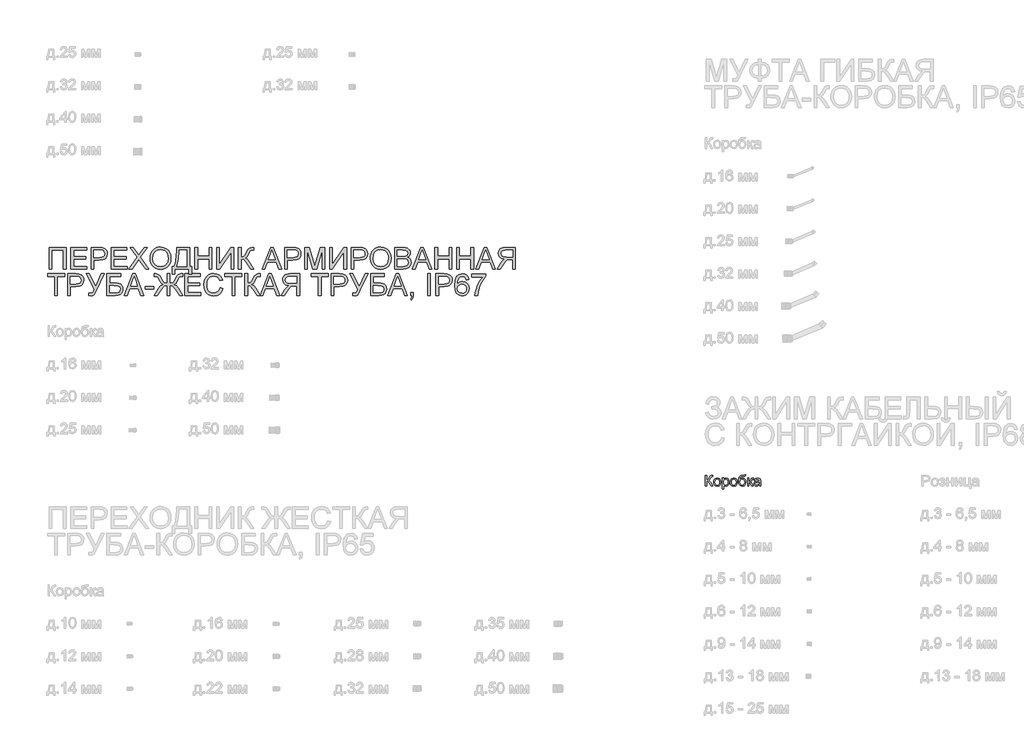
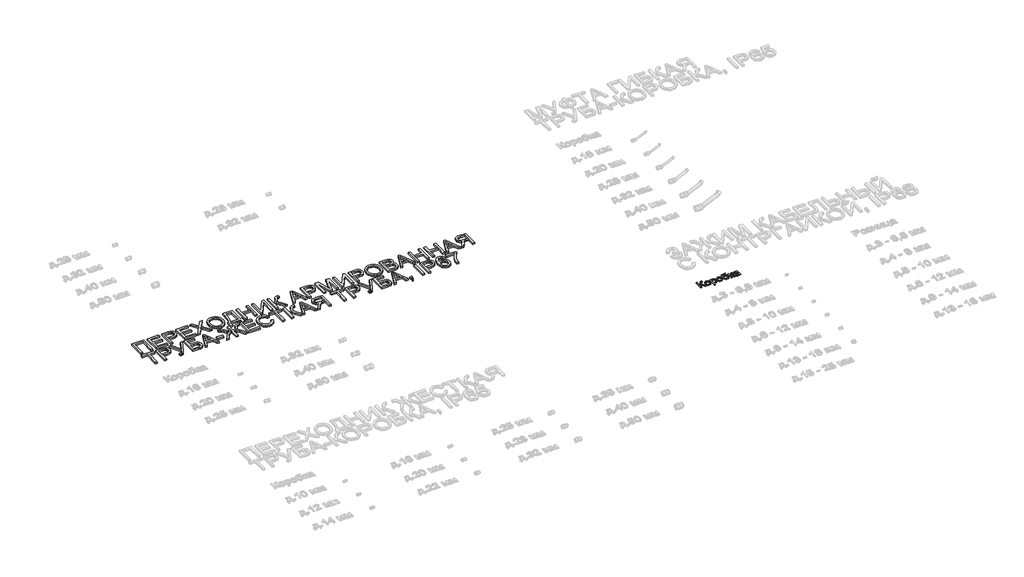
# One storey, part 59 of 98: 2 proxies.
"""IFC4 building model written with IfcOpenShell, lengths in millimetres."""

from ifc_helpers import new_model, si_unit, origin, origin_with_axes, place, context, project, spatial, polyline, outline, extrude, element, save

model = new_model("IFC4")

# Units and contexts
model_context = context("Model", 3, world=origin())
ifc_project = project(units=[si_unit("LENGTHUNIT", "METRE", prefix="MILLI")], contexts=[model_context])

# Site, building, storey
site = spatial("IfcSite", under=ifc_project)
building = spatial("IfcBuilding", under=site)
storey = spatial("IfcBuildingStorey", under=building, Name="Этаж 01", Elevation=0.0)

# Proxies
placement = place(None, origin())
element("IfcBuildingElementProxy", 1, Name="100", ObjectType="100", at=placement, inside=storey, context=model_context, shape_type="SweptSolid", body=[
    extrude(outline(polyline([(14422.316053, -27123.005492), (14434.8730918, -27123.005492), (14434.8730918, -27166.9551277), (14448.9139213, -27163.631927), (14458.7118451, -27146.8197198), (14465.6402893, -27132.7788903), (14473.4884386, -27125.8259206), (14484.7088394, -27123.005492), (14492.9493961, -27123.1526448), (14492.9493961, -27135.7096836), (14490.1780184, -27135.6361072), (14487.4066407, -27135.5625308), (14477.5964542, -27138.5791631), (14470.1407124, -27151.5040839), (14461.2502309, -27167.2494333), (14452.5804785, -27172.4488322), (14462.2741691, -27178.1264776), (14471.8329696, -27189.9600151), (14492.9493961, -27223.4618021), (14478.3812691, -27223.4618021), (14460.5267296, -27195.159414), (14447.9574281, -27180.3828205), (14434.8730918, -27176.3729068), (14434.8730918, -27223.4618021), (14422.316053, -27223.4618021), (14422.316053, -27123.005492)])), origin_with_axes(), (0.0, 0.0, 1.0), 10.0),
    extrude(outline(polyline([(14499.2279155, -27186.5755008), (14501.9441109, -27168.7884063), (14510.0926971, -27156.2865498), (14520.160401, -27150.1613146), (14532.2146677, -27148.1195695), (14545.4063029, -27150.6058387), (14555.9430564, -27158.0646461), (14562.8500409, -27169.9073807), (14565.152369, -27185.5454312), (14561.0811416, -27207.888131), (14549.2230786, -27220.5310089), (14532.2146677, -27225.031432), (14518.863617, -27222.5543599), (14508.3391263, -27215.1231436), (14501.5057182, -27203.0320887), (14499.2279155, -27186.5755008)]), holes=[polyline([(14511.7849543, -27186.5509753), (14513.2380882, -27197.9154633), (14517.5974898, -27206.0119328), (14524.158052, -27210.8587781), (14532.2146677, -27212.4743932), (14540.2344952, -27210.8495811), (14546.7827947, -27205.9751446), (14551.1421964, -27197.7713762), (14552.5953303, -27186.1585678), (14551.1329993, -27175.1251737), (14546.7460065, -27167.1390687), (14540.18851, -27162.2922234), (14532.2146677, -27160.6766083), (14524.158052, -27162.286092), (14517.5974898, -27167.1145432), (14513.2380882, -27175.1926187), (14511.7849543, -27186.5509753)])]), origin_with_axes(), (0.0, 0.0, 1.0), 10.0),
    extrude(outline(polyline([(14579.2790377, -27251.7151394), (14579.2790377, -27149.6891994), (14591.8360764, -27149.6891994), (14591.8360764, -27162.0009835), (14600.5180915, -27151.589923), (14612.2412644, -27148.1195695), (14628.1582921, -27152.9756119), (14638.5570898, -27166.6608221), (14642.0642315, -27186.011415), (14638.1033687, -27206.3552894), (14626.600925, -27220.2121779), (14610.7206855, -27225.031432), (14599.7945903, -27221.8063332), (14591.8360764, -27213.6516156), (14591.8360764, -27251.7151394), (14579.2790377, -27251.7151394)]), holes=[polyline([(14591.8360764, -27187.164112), (14593.1941741, -27198.421301), (14597.2684672, -27206.2939757), (14603.2802722, -27210.9292888), (14610.4509054, -27212.4743932), (14617.7380346, -27210.8741065), (14623.9031237, -27206.0732465), (14628.1061755, -27197.9123976), (14629.5071927, -27186.2321442), (14628.139898, -27175.0362689), (14624.0380137, -27167.0532296), (14618.0354058, -27162.2707636), (14610.9659402, -27160.6766083), (14603.8688833, -27162.3719312), (14597.6363492, -27167.4578997), (14593.2861446, -27175.7750985), (14591.8360764, -27187.164112)])]), origin_with_axes(), (0.0, 0.0, 1.0), 10.0),
    extrude(outline(polyline([(14653.0516404, -27186.5755008), (14655.7678358, -27168.7884063), (14663.916422, -27156.2865498), (14673.9841259, -27150.1613146), (14686.0383927, -27148.1195695), (14699.2300279, -27150.6058387), (14709.7667813, -27158.0646461), (14716.6737658, -27169.9073807), (14718.976094, -27185.5454312), (14714.9048665, -27207.888131), (14703.0468036, -27220.5310089), (14686.0383927, -27225.031432), (14672.6873419, -27222.5543599), (14662.1628512, -27215.1231436), (14655.3294431, -27203.0320887), (14653.0516404, -27186.5755008)]), holes=[polyline([(14665.6086792, -27186.5509753), (14667.0618131, -27197.9154633), (14671.4212147, -27206.0119328), (14677.981777, -27210.8587781), (14686.0383927, -27212.4743932), (14694.0582202, -27210.8495811), (14700.6065197, -27205.9751446), (14704.9659213, -27197.7713762), (14706.4190552, -27186.1585678), (14704.9567243, -27175.1251737), (14700.5697315, -27167.1390687), (14694.0122349, -27162.2922234), (14686.0383927, -27160.6766083), (14677.981777, -27162.286092), (14671.4212147, -27167.1145432), (14667.0618131, -27175.1926187), (14665.6086792, -27186.5509753)])]), origin_with_axes(), (0.0, 0.0, 1.0), 10.0),
    extrude(outline(polyline([(14784.9005475, -27121.4358622), (14795.8879564, -27121.4358622), (14792.6505949, -27131.233786), (14786.2494481, -27134.7777158), (14770.8719807, -27135.5625308), (14750.1602244, -27138.4565358), (14742.2139733, -27147.7271621), (14739.5284348, -27164.1346991), (14750.4054791, -27152.1172206), (14764.4217831, -27148.1195695), (14777.4877253, -27150.661021), (14788.0888581, -27158.2853753), (14795.1154042, -27170.2446059), (14797.4575863, -27185.7906858), (14792.8100104, -27207.3976217), (14781.7858133, -27220.4329071), (14764.4217831, -27225.031432), (14753.087952, -27223.550707), (14744.5929436, -27219.1085319), (14733.7404247, -27203.9517937), (14729.9635029, -27171.7866446), (14732.3455388, -27147.6934396), (14739.4916466, -27132.9996195), (14751.5796358, -27125.5040239), (14768.7873161, -27123.005492), (14782.7668319, -27122.7234491), (14784.9005475, -27121.4358622)]), holes=[polyline([(14784.9005475, -27185.3982784), (14783.5393841, -27175.5175811), (14779.455894, -27167.6050525), (14772.8953317, -27162.4087194), (14764.102952, -27160.6766083), (14754.936559, -27162.5068212), (14748.1368734, -27167.99746), (14743.9246246, -27176.5476507), (14742.5205416, -27187.5565194), (14744.0717774, -27198.228163), (14748.7254846, -27206.0609838), (14755.6539289, -27210.8710409), (14764.0293756, -27212.4743932), (14772.447742, -27210.6196548), (14779.1125374, -27205.0554397), (14783.453545, -27196.4316726), (14784.9005475, -27185.3982784)])]), origin_with_axes(), (0.0, 0.0, 1.0), 10.0),
    extrude(outline(polyline([(14813.1538847, -27149.6891994), (14825.7109235, -27149.6891994), (14825.7109235, -27181.0817963), (14834.1231584, -27178.8254534), (14841.0148145, -27165.6798034), (14846.7415109, -27154.3367753), (14851.7937569, -27150.6456926), (14860.9785441, -27149.6891994), (14863.3820398, -27149.6891994), (14863.3820398, -27162.3198146), (14859.9975254, -27162.2462382), (14853.8661589, -27163.5706133), (14849.5496768, -27171.8356955), (14844.485168, -27180.775228), (14837.3850455, -27185.1530237), (14845.3067711, -27190.0397229), (14853.0813439, -27200.3342874), (14866.5212995, -27223.4618021), (14852.2474781, -27223.4618021), (14839.0773026, -27200.8247967), (14832.4554267, -27191.2476021), (14825.7109235, -27188.9299455), (14825.7109235, -27223.4618021), (14813.1538847, -27223.4618021), (14813.1538847, -27149.6891994)])), origin_with_axes(), (0.0, 0.0, 1.0), 10.0),
    extrude(outline(polyline([(14921.4583441, -27214.0440231), (14909.2814501, -27222.5543599), (14895.8292318, -27225.031432), (14885.3353979, -27223.5415099), (14877.5945475, -27219.0717437), (14872.8212787, -27212.2843209), (14871.230189, -27203.8414291), (14873.6336847, -27193.9086152), (14879.9489923, -27186.6981281), (14888.741372, -27182.5778498), (14899.6061536, -27180.6893888), (14921.3847677, -27176.3729068), (14921.4583441, -27173.5770036), (14918.0002533, -27164.3063773), (14904.1188394, -27160.6766083), (14891.4146478, -27163.0923667), (14885.3568576, -27171.6640172), (14872.7998189, -27170.0943874), (14878.2322097, -27157.8316542), (14889.1705677, -27150.6456926), (14905.7375202, -27148.1195695), (14920.955572, -27150.351387), (14929.551748, -27155.955456), (14933.4022462, -27164.4780556), (14934.0153829, -27175.4654645), (14934.0153829, -27191.0881866), (14934.653045, -27212.9035889), (14937.1546426, -27223.4618021), (14924.5976038, -27223.4618021), (14921.4583441, -27214.0440231)]), holes=[polyline([(14921.4583441, -27188.9299455), (14901.2003089, -27192.7804438), (14890.396841, -27194.8160575), (14885.5040104, -27198.1269954), (14883.7872278, -27202.9585123), (14887.5273614, -27209.7520665), (14898.5025076, -27212.4743932), (14911.2066992, -27209.4700236), (14919.3982049, -27202.1982228), (14921.3847677, -27192.4861382), (14921.4583441, -27188.9299455)])]), origin_with_axes(), (0.0, 0.0, 1.0), 10.0),
])
element("IfcBuildingElementProxy", 2, Name="200", ObjectType="200", at=placement, inside=storey, context=model_context, shape_type="SweptSolid", body=[
    extrude(outline(polyline([(8360.7263973, -25016.2483726), (8517.6893819, -25016.2483726), (8517.6893819, -25217.1609929), (8492.5753043, -25217.1609929), (8492.5753043, -25041.3624501), (8385.8404748, -25041.3624501), (8385.8404748, -25217.1609929), (8360.7263973, -25217.1609929), (8360.7263973, -25016.2483726)])), origin_with_axes(), (0.0, 0.0, 1.0), 20.0),
    extrude(outline(polyline([(8561.6390176, -25217.1609929), (8561.6390176, -25016.2483726), (8706.0449634, -25016.2483726), (8706.0449634, -25041.3624501), (8586.7530951, -25041.3624501), (8586.7530951, -25101.0083843), (8699.766444, -25101.0083843), (8699.766444, -25126.1224618), (8586.7530951, -25126.1224618), (8586.7530951, -25192.0469154), (8709.1842231, -25192.0469154), (8709.1842231, -25217.1609929), (8561.6390176, -25217.1609929)])), origin_with_axes(), (0.0, 0.0, 1.0), 20.0),
    extrude(outline(polyline([(8746.8553394, -25217.1609929), (8746.8553394, -25016.2483726), (8821.3146552, -25016.2483726), (8851.333826, -25018.161359), (8875.736665, -25027.5546126), (8884.6087525, -25035.8810084), (8891.5555908, -25046.9787819), (8896.0437512, -25060.0692496), (8897.5398046, -25074.3737278), (8893.499234, -25098.0530656), (8881.3775223, -25117.7838033), (8871.6700362, -25125.5522447), (8858.70986, -25131.1011315), (8823.0314379, -25135.5402409), (8771.9694169, -25135.5402409), (8771.9694169, -25217.1609929), (8746.8553394, -25217.1609929)]), holes=[polyline([(8771.9694169, -25110.4261634), (8824.5029659, -25110.4261634), (8846.7720893, -25108.1207695), (8861.4873691, -25101.204588), (8869.6911376, -25090.1068145), (8872.4257271, -25075.2566446), (8870.8131777, -25063.9749301), (8865.9755294, -25054.4590492), (8858.5136563, -25047.297613), (8849.0284322, -25043.0792328), (8823.9143547, -25041.3624501), (8771.9694169, -25041.3624501), (8771.9694169, -25110.4261634)])]), origin_with_axes(), (0.0, 0.0, 1.0), 20.0),
    extrude(outline(polyline([(8932.0716612, -25217.1609929), (8932.0716612, -25016.2483726), (9076.4776071, -25016.2483726), (9076.4776071, -25041.3624501), (8957.1857388, -25041.3624501), (8957.1857388, -25101.0083843), (9070.1990877, -25101.0083843), (9070.1990877, -25126.1224618), (8957.1857388, -25126.1224618), (8957.1857388, -25192.0469154), (9079.6168668, -25192.0469154), (9079.6168668, -25217.1609929), (8932.0716612, -25217.1609929)])), origin_with_axes(), (0.0, 0.0, 1.0), 20.0),
    extrude(outline(polyline([(9095.3131652, -25217.1609929), (9172.764588, -25107.6793111), (9107.870204, -25016.2483726), (9137.9874767, -25016.2483726), (9174.5304215, -25067.702801), (9186.8422056, -25087.7646325), (9201.2631798, -25067.3594445), (9237.4137172, -25016.2483726), (9267.9724483, -25016.2483726), (9203.0780644, -25107.9736167), (9280.5294871, -25217.1609929), (9250.4122144, -25217.1609929), (9198.8106332, -25144.3694088), (9188.068479, -25129.2617215), (9176.2472042, -25145.8409368), (9125.8718963, -25217.1609929), (9095.3131652, -25217.1609929)])), origin_with_axes(), (0.0, 0.0, 1.0), 20.0),
    extrude(outline(polyline([(9293.0865258, -25119.3534331), (9294.7603889, -25095.7875256), (9299.7819782, -25074.9255508), (9308.1512935, -25056.7675087), (9319.8683351, -25041.3133992), (9334.2310613, -25028.9740239), (9350.5374308, -25020.1601845), (9368.7874434, -25014.8718808), (9388.9810993, -25013.1091129), (9415.3337128, -25016.4200509), (9438.9639997, -25026.3528647), (9458.5843727, -25042.2085787), (9472.9072451, -25063.288217), (9481.6628366, -25088.5739728), (9484.5813671, -25117.0480393), (9481.5095524, -25145.9022504), (9472.2941084, -25171.5436255), (9457.4439386, -25192.660052), (9437.4679462, -25207.9394175), (9414.0399945, -25217.2100438), (9388.8339465, -25220.3002526), (9362.0766627, -25216.8850814), (9338.3114858, -25206.6395678), (9318.7401636, -25190.4895482), (9304.5644441, -25169.360859), (9295.9560054, -25145.0499905), (9293.0865258, -25119.3534331)]), holes=[polyline([(9318.2006034, -25119.5986878), (9323.2221926, -25151.0280729), (9338.2869603, -25174.9771908), (9360.9300971, -25190.133929), (9388.6867937, -25195.186175), (9416.8481604, -25190.084878), (9439.5280854, -25174.780987), (9448.2514872, -25163.5084696), (9454.4824885, -25150.0961052), (9459.4672895, -25116.8518355), (9457.333574, -25094.6195003), (9450.9324272, -25075.4037974), (9440.4293963, -25059.6891049), (9425.990028, -25047.9598006), (9408.5708155, -25040.657343), (9389.1282521, -25038.2231904), (9362.1134509, -25042.9136859), (9339.1453516, -25056.9851722), (9329.9820243, -25067.9342601), (9323.4367904, -25082.019542), (9318.2006034, -25119.5986878)])]), origin_with_axes(), (0.0, 0.0, 1.0), 20.0),
    extrude(outline(polyline([(9537.9487818, -25016.2483726), (9657.2406501, -25016.2483726), (9657.2406501, -25192.0469154), (9676.0762083, -25192.0469154), (9676.0762083, -25264.2498883), (9650.9621308, -25264.2498883), (9650.9621308, -25217.1609929), (9522.2524834, -25217.1609929), (9522.2524834, -25264.2498883), (9497.1384058, -25264.2498883), (9497.1384058, -25192.0469154), (9512.8347043, -25192.0469154), (9523.8221132, -25169.2658228), (9531.6702624, -25137.2202353), (9536.379152, -25095.910153), (9537.9487818, -25045.3355757), (9537.9487818, -25016.2483726)]), holes=[polyline([(9632.1265726, -25041.3624501), (9563.0628594, -25041.3624501), (9563.0628594, -25051.4669423), (9557.9615624, -25120.2854008), (9550.4077187, -25160.0534445), (9537.9487818, -25192.0469154), (9632.1265726, -25192.0469154), (9632.1265726, -25041.3624501)])]), origin_with_axes(), (0.0, 0.0, 1.0), 20.0),
    extrude(outline(polyline([(9707.4688052, -25217.1609929), (9707.4688052, -25016.2483726), (9732.5828827, -25016.2483726), (9732.5828827, -25097.8691246), (9839.3177123, -25097.8691246), (9839.3177123, -25016.2483726), (9864.4317898, -25016.2483726), (9864.4317898, -25217.1609929), (9839.3177123, -25217.1609929), (9839.3177123, -25122.9832021), (9732.5828827, -25122.9832021), (9732.5828827, -25217.1609929), (9707.4688052, -25217.1609929)])), origin_with_axes(), (0.0, 0.0, 1.0), 20.0),
    extrude(outline(polyline([(9908.3814255, -25016.2483726), (9933.495503, -25016.2483726), (9933.495503, -25175.3695982), (10038.6607027, -25016.2483726), (10065.3444101, -25016.2483726), (10065.3444101, -25217.1609929), (10040.2303326, -25217.1609929), (10040.2303326, -25058.4812256), (9935.3103876, -25217.1609929), (9908.3814255, -25217.1609929), (9908.3814255, -25016.2483726)])), origin_with_axes(), (0.0, 0.0, 1.0), 20.0),
    extrude(outline(polyline([(10109.2940458, -25016.2483726), (10134.4081233, -25016.2483726), (10134.4081233, -25104.147644), (10151.4104029, -25102.4860436), (10162.4897823, -25097.5012426), (10171.4477089, -25085.7719383), (10182.0856299, -25063.8768282), (10195.9425184, -25035.7951693), (10211.6388169, -25021.8892299), (10234.0796186, -25016.2483726), (10250.560732, -25016.5426782), (10250.560732, -25041.6567557), (10245.0179766, -25041.5096029), (10239.4752212, -25041.3624501), (10227.9727775, -25042.8707663), (10219.8548481, -25047.3957149), (10204.9433646, -25073.2455564), (10187.1624015, -25104.7362552), (10169.8228967, -25115.1350529), (10189.2102779, -25126.4903438), (10208.3278789, -25150.1574188), (10250.560732, -25217.1609929), (10221.4244779, -25217.1609929), (10185.7153989, -25160.5562166), (10160.5767959, -25131.0030296), (10148.970119, -25124.988159), (10134.4081233, -25122.9832021), (10134.4081233, -25217.1609929), (10109.2940458, -25217.1609929), (10109.2940458, -25016.2483726)])), origin_with_axes(), (0.0, 0.0, 1.0), 20.0),
    extrude(outline(polyline([(10327.6197472, -25217.1609929), (10407.8180222, -25016.2483726), (10429.2042288, -25016.2483726), (10509.4025038, -25217.1609929), (10482.8659492, -25217.1609929), (10459.8610617, -25154.375799), (10377.1121383, -25154.375799), (10354.1563018, -25217.1609929), (10327.6197472, -25217.1609929)]), holes=[polyline([(10386.3337136, -25129.2617215), (10450.6885373, -25129.2617215), (10432.5887432, -25079.8674323), (10418.5111255, -25041.3624501), (10406.0031377, -25075.5509502), (10386.3337136, -25129.2617215)])]), origin_with_axes(), (0.0, 0.0, 1.0), 20.0),
    extrude(outline(polyline([(10536.2333639, -25217.1609929), (10536.2333639, -25016.2483726), (10610.6926798, -25016.2483726), (10640.7118506, -25018.161359), (10665.1146896, -25027.5546126), (10673.986777, -25035.8810084), (10680.9336154, -25046.9787819), (10685.4217757, -25060.0692496), (10686.9178292, -25074.3737278), (10682.8772586, -25098.0530656), (10670.7555468, -25117.7838033), (10661.0480607, -25125.5522447), (10648.0878846, -25131.1011315), (10612.4094624, -25135.5402409), (10561.3474415, -25135.5402409), (10561.3474415, -25217.1609929), (10536.2333639, -25217.1609929)]), holes=[polyline([(10561.3474415, -25110.4261634), (10613.8809904, -25110.4261634), (10636.1501138, -25108.1207695), (10650.8653936, -25101.204588), (10659.0691621, -25090.1068145), (10661.8037516, -25075.2566446), (10660.1912022, -25063.9749301), (10655.353554, -25054.4590492), (10647.8916808, -25047.297613), (10638.4064567, -25043.0792328), (10613.2923792, -25041.3624501), (10561.3474415, -25041.3624501), (10561.3474415, -25110.4261634)])]), origin_with_axes(), (0.0, 0.0, 1.0), 20.0),
    extrude(outline(polyline([(10721.4496858, -25217.1609929), (10721.4496858, -25016.2483726), (10764.6635575, -25016.2483726), (10805.7682391, -25157.8584153), (10814.0578467, -25187.4361277), (10823.0341674, -25155.4058686), (10863.4521359, -25016.2483726), (10906.6660076, -25016.2483726), (10906.6660076, -25217.1609929), (10881.5519301, -25217.1609929), (10881.5519301, -25041.3624501), (10831.0785203, -25217.1609929), (10797.0371731, -25217.1609929), (10746.5637633, -25041.3624501), (10746.5637633, -25217.1609929), (10721.4496858, -25217.1609929)])), origin_with_axes(), (0.0, 0.0, 1.0), 20.0),
    extrude(outline(polyline([(10950.6156433, -25016.2483726), (10975.7297208, -25016.2483726), (10975.7297208, -25175.3695982), (11080.8949205, -25016.2483726), (11107.5786279, -25016.2483726), (11107.5786279, -25217.1609929), (11082.4645504, -25217.1609929), (11082.4645504, -25058.4812256), (10977.5446054, -25217.1609929), (10950.6156433, -25217.1609929), (10950.6156433, -25016.2483726)])), origin_with_axes(), (0.0, 0.0, 1.0), 20.0),
    extrude(outline(polyline([(11151.5282636, -25217.1609929), (11151.5282636, -25016.2483726), (11225.9875794, -25016.2483726), (11256.0067502, -25018.161359), (11280.4095893, -25027.5546126), (11289.2816767, -25035.8810084), (11296.228515, -25046.9787819), (11300.7166754, -25060.0692496), (11302.2127288, -25074.3737278), (11298.1721583, -25098.0530656), (11286.0504465, -25117.7838033), (11276.3429604, -25125.5522447), (11263.3827842, -25131.1011315), (11227.7043621, -25135.5402409), (11176.6423411, -25135.5402409), (11176.6423411, -25217.1609929), (11151.5282636, -25217.1609929)]), holes=[polyline([(11176.6423411, -25110.4261634), (11229.1758901, -25110.4261634), (11251.4450135, -25108.1207695), (11266.1602933, -25101.204588), (11274.3640618, -25090.1068145), (11277.0986513, -25075.2566446), (11275.4861019, -25063.9749301), (11270.6484536, -25054.4590492), (11263.1865805, -25047.297613), (11253.7013564, -25043.0792328), (11228.5872789, -25041.3624501), (11176.6423411, -25041.3624501), (11176.6423411, -25110.4261634)])]), origin_with_axes(), (0.0, 0.0, 1.0), 20.0),
    extrude(outline(polyline([(11327.3268064, -25119.3534331), (11329.0006695, -25095.7875256), (11334.0222587, -25074.9255508), (11342.3915741, -25056.7675087), (11354.1086156, -25041.3133992), (11368.4713418, -25028.9740239), (11384.7777113, -25020.1601845), (11403.0277239, -25014.8718808), (11423.2213798, -25013.1091129), (11449.5739934, -25016.4200509), (11473.2042802, -25026.3528647), (11492.8246533, -25042.2085787), (11507.1475256, -25063.288217), (11515.9031171, -25088.5739728), (11518.8216476, -25117.0480393), (11515.7498329, -25145.9022504), (11506.534389, -25171.5436255), (11491.6842191, -25192.660052), (11471.7082267, -25207.9394175), (11448.280275, -25217.2100438), (11423.074227, -25220.3002526), (11396.3169432, -25216.8850814), (11372.5517663, -25206.6395678), (11352.9804442, -25190.4895482), (11338.8047246, -25169.360859), (11330.1962859, -25145.0499905), (11327.3268064, -25119.3534331)]), holes=[polyline([(11352.4408839, -25119.5986878), (11357.4624731, -25151.0280729), (11372.5272408, -25174.9771908), (11395.1703776, -25190.133929), (11422.9270742, -25195.186175), (11451.0884409, -25190.084878), (11473.7683659, -25174.780987), (11482.4917677, -25163.5084696), (11488.722769, -25150.0961052), (11493.7075701, -25116.8518355), (11491.5738545, -25094.6195003), (11485.1727078, -25075.4037974), (11474.6696768, -25059.6891049), (11460.2303085, -25047.9598006), (11442.811096, -25040.657343), (11423.3685326, -25038.2231904), (11396.3537314, -25042.9136859), (11373.3856322, -25056.9851722), (11364.2223048, -25067.9342601), (11357.677071, -25082.019542), (11352.4408839, -25119.5986878)])]), origin_with_axes(), (0.0, 0.0, 1.0), 20.0),
    extrude(outline(polyline([(11553.3535042, -25217.1609929), (11553.3535042, -25016.2483726), (11630.020112, -25016.2483726), (11651.1058817, -25017.7260319), (11667.568601, -25022.15901), (11680.1869534, -25029.6576713), (11689.7396226, -25040.3323805), (11695.7544932, -25052.8894193), (11697.75945, -25066.0350693), (11696.0733242, -25078.1322555), (11691.0149468, -25089.5059406), (11682.5475295, -25099.4571485), (11670.6342843, -25107.2869037), (11684.8651861, -25114.71812), (11695.3804798, -25126.02436), (11701.873597, -25140.4575969), (11704.0379694, -25157.2698041), (11698.127332, -25184.2723425), (11683.4856286, -25203.5003081), (11661.6334381, -25213.7029021), (11629.4315008, -25217.1609929), (11553.3535042, -25217.1609929)]), holes=[polyline([(11578.4675817, -25097.8691246), (11624.3302038, -25097.8691246), (11651.1120131, -25095.7108836), (11667.2252444, -25086.4157318), (11672.6453725, -25070.0572458), (11667.5931264, -25053.6742342), (11653.1231013, -25043.986675), (11620.8475876, -25041.3624501), (11578.4675817, -25041.3624501), (11578.4675817, -25097.8691246)]), polyline([(11578.4675817, -25192.0469154), (11629.9710611, -25192.0469154), (11648.6104155, -25191.0658967), (11664.3802904, -25185.5967177), (11674.828139, -25174.4376305), (11678.9238919, -25157.5150587), (11674.1169005, -25137.9927875), (11667.819987, -25130.9355846), (11658.5432294, -25126.343191), (11627.5185144, -25122.9832021), (11578.4675817, -25122.9832021), (11578.4675817, -25192.0469154)])]), origin_with_axes(), (0.0, 0.0, 1.0), 20.0),
    extrude(outline(polyline([(11715.1725312, -25217.1609929), (11795.3708061, -25016.2483726), (11816.7570128, -25016.2483726), (11896.9552877, -25217.1609929), (11870.4187331, -25217.1609929), (11847.4138457, -25154.375799), (11764.6649222, -25154.375799), (11741.7090857, -25217.1609929), (11715.1725312, -25217.1609929)]), holes=[polyline([(11773.8864976, -25129.2617215), (11838.2413213, -25129.2617215), (11820.1415271, -25079.8674323), (11806.0639094, -25041.3624501), (11793.5559216, -25075.5509502), (11773.8864976, -25129.2617215)])]), origin_with_axes(), (0.0, 0.0, 1.0), 20.0),
    extrude(outline(polyline([(11923.7861479, -25217.1609929), (11923.7861479, -25016.2483726), (11948.9002254, -25016.2483726), (11948.9002254, -25097.8691246), (12055.635055, -25097.8691246), (12055.635055, -25016.2483726), (12080.7491325, -25016.2483726), (12080.7491325, -25217.1609929), (12055.635055, -25217.1609929), (12055.635055, -25122.9832021), (11948.9002254, -25122.9832021), (11948.9002254, -25217.1609929), (11923.7861479, -25217.1609929)])), origin_with_axes(), (0.0, 0.0, 1.0), 20.0),
    extrude(outline(polyline([(12124.6987682, -25217.1609929), (12124.6987682, -25016.2483726), (12149.8128457, -25016.2483726), (12149.8128457, -25097.8691246), (12256.5476753, -25097.8691246), (12256.5476753, -25016.2483726), (12281.6617528, -25016.2483726), (12281.6617528, -25217.1609929), (12256.5476753, -25217.1609929), (12256.5476753, -25122.9832021), (12149.8128457, -25122.9832021), (12149.8128457, -25217.1609929), (12124.6987682, -25217.1609929)])), origin_with_axes(), (0.0, 0.0, 1.0), 20.0),
    extrude(outline(polyline([(12302.2140936, -25217.1609929), (12382.4123685, -25016.2483726), (12403.7985752, -25016.2483726), (12483.9968501, -25217.1609929), (12457.4602956, -25217.1609929), (12434.4554081, -25154.375799), (12351.7064847, -25154.375799), (12328.7506482, -25217.1609929), (12302.2140936, -25217.1609929)]), holes=[polyline([(12360.92806, -25129.2617215), (12425.2828837, -25129.2617215), (12407.1830895, -25079.8674323), (12393.1054719, -25041.3624501), (12380.597484, -25075.5509502), (12360.92806, -25129.2617215)])]), origin_with_axes(), (0.0, 0.0, 1.0), 20.0),
    extrude(outline(polyline([(12667.7906949, -25217.1609929), (12642.6766174, -25217.1609929), (12642.6766174, -25129.2617215), (12612.363141, -25129.2617215), (12597.795014, -25130.1446383), (12585.8511119, -25134.9271042), (12572.5828346, -25147.9501269), (12553.6982255, -25175.516751), (12527.5540784, -25217.1609929), (12498.3687734, -25217.1609929), (12531.8705604, -25162.7144576), (12552.2266975, -25136.8646161), (12566.5005189, -25126.1224618), (12541.7604548, -25119.4637977), (12524.4393441, -25107.4340565), (12514.2306188, -25091.0265195), (12510.8277103, -25071.2344681), (12512.8817181, -25055.3235718), (12519.0437415, -25040.8474153), (12528.6454616, -25029.1732934), (12541.0185594, -25021.6685007), (12557.9472625, -25017.6034046), (12581.2157987, -25016.2483726), (12667.7906949, -25016.2483726), (12667.7906949, -25217.1609929)]), holes=[polyline([(12642.6766174, -25104.147644), (12642.6766174, -25041.3624501), (12580.1366782, -25041.3624501), (12560.2649191, -25043.5329539), (12546.5613148, -25050.0444652), (12538.5966696, -25059.9159654), (12535.9417879, -25072.1664359), (12541.5090687, -25089.211635), (12548.3639366, -25095.9684009), (12557.7939784, -25100.5914514), (12586.4642485, -25104.147644), (12642.6766174, -25104.147644)])]), origin_with_axes(), (0.0, 0.0, 1.0), 20.0),
    extrude(outline(polyline([(8410.9545523, -25461.1106286), (8410.9545523, -25285.3120858), (8345.0300988, -25285.3120858), (8345.0300988, -25260.1980083), (8501.9930834, -25260.1980083), (8501.9930834, -25285.3120858), (8436.0686299, -25285.3120858), (8436.0686299, -25461.1106286), (8410.9545523, -25461.1106286)])), origin_with_axes(), (0.0, 0.0, 1.0), 20.0),
    extrude(outline(polyline([(8530.2464206, -25461.1106286), (8530.2464206, -25260.1980083), (8604.7057365, -25260.1980083), (8634.7249073, -25262.1109947), (8659.1277463, -25271.5042483), (8667.9998337, -25279.8306441), (8674.9466721, -25290.9284176), (8679.4348324, -25304.0188853), (8680.9308859, -25318.3233635), (8676.8903153, -25342.0027013), (8664.7686035, -25361.733439), (8655.0611174, -25369.5018804), (8642.1009413, -25375.0507672), (8606.4225191, -25379.4898766), (8555.3604982, -25379.4898766), (8555.3604982, -25461.1106286), (8530.2464206, -25461.1106286)]), holes=[polyline([(8555.3604982, -25354.375799), (8607.8940471, -25354.375799), (8630.1631705, -25352.0704052), (8644.8784503, -25345.1542237), (8653.0822188, -25334.0564502), (8655.8168083, -25319.2062803), (8654.2042589, -25307.9245658), (8649.3666107, -25298.4086849), (8641.9047375, -25291.2472487), (8632.4195134, -25287.0288685), (8607.3054359, -25285.3120858), (8555.3604982, -25285.3120858), (8555.3604982, -25354.375799)])]), origin_with_axes(), (0.0, 0.0, 1.0), 20.0),
    extrude(outline(polyline([(8701.3360739, -25260.1980083), (8729.1479527, -25260.1980083), (8789.2353452, -25379.195571), (8843.2894731, -25260.1980083), (8870.8560972, -25260.1980083), (8794.5818969, -25416.7195345), (8773.8333524, -25455.1754657), (8763.9863776, -25461.9812826), (8750.6322612, -25464.2498883), (8728.0197813, -25461.1106286), (8728.0197813, -25439.1358107), (8747.7873071, -25439.1358107), (8762.453536, -25433.5440044), (8776.0406444, -25408.0865703), (8701.3360739, -25260.1980083)])), origin_with_axes(), (0.0, 0.0, 1.0), 20.0),
    extrude(outline(polyline([(8894.4005449, -25260.1980083), (9019.9709326, -25260.1980083), (9019.9709326, -25285.3120858), (8919.5146225, -25285.3120858), (8919.5146225, -25344.95802), (8966.5544669, -25344.95802), (8989.9394991, -25346.2333442), (9008.002505, -25350.059317), (9021.8716563, -25357.4292196), (9032.6751242, -25369.3363335), (9039.6280939, -25384.66475), (9041.9457505, -25402.2985603), (9040.2964129, -25417.1058106), (9035.3484, -25430.9197795), (9027.1262374, -25443.0169658), (9015.6544505, -25452.6738682), (8997.9593266, -25459.0014385), (8971.0671527, -25461.1106286), (8894.4005449, -25461.1106286), (8894.4005449, -25260.1980083)]), holes=[polyline([(8919.5146225, -25435.996551), (8973.3234956, -25435.996551), (8992.3429948, -25433.9241491), (9005.9423659, -25427.7069434), (9014.1093462, -25417.3449339), (9016.8316729, -25402.8381205), (9015.2743058, -25392.0346526), (9010.6022045, -25383.1686965), (9003.1525941, -25376.5958716), (8993.2626998, -25372.6717969), (8955.4199052, -25370.0720975), (8919.5146225, -25370.0720975), (8919.5146225, -25435.996551)])]), origin_with_axes(), (0.0, 0.0, 1.0), 20.0),
    extrude(outline(polyline([(9053.0803122, -25461.1106286), (9133.2785871, -25260.1980083), (9154.6647938, -25260.1980083), (9234.8630687, -25461.1106286), (9208.3265142, -25461.1106286), (9185.3216267, -25398.3254347), (9102.5727033, -25398.3254347), (9079.6168668, -25461.1106286), (9053.0803122, -25461.1106286)]), holes=[polyline([(9111.7942786, -25373.2113572), (9176.1491023, -25373.2113572), (9158.0493081, -25323.817068), (9143.9716905, -25285.3120858), (9131.4637026, -25319.5005859), (9111.7942786, -25373.2113572)])]), origin_with_axes(), (0.0, 0.0, 1.0), 20.0),
    extrude(outline(polyline([(9245.9976305, -25401.4646944), (9245.9976305, -25376.3506169), (9324.4791228, -25376.3506169), (9324.4791228, -25401.4646944), (9245.9976305, -25401.4646944)])), origin_with_axes(), (0.0, 0.0, 1.0), 20.0),
    extrude(outline(polyline([(9475.163588, -25260.1980083), (9475.163588, -25348.0972797), (9493.5331623, -25346.4050225), (9505.0846569, -25341.328251), (9514.1222913, -25329.5805526), (9524.9502847, -25307.8755149), (9539.1750551, -25279.7938559), (9555.0920828, -25265.8388655), (9577.7290882, -25260.1980083), (9594.4554563, -25260.4923139), (9594.4554563, -25285.3120858), (9588.9617518, -25285.164933), (9583.3208946, -25285.0177802), (9571.5854589, -25286.5506219), (9563.357165, -25291.1491468), (9548.1513758, -25316.8027846), (9532.0871954, -25345.5221057), (9512.3932459, -25358.2017718), (9532.2466109, -25369.9249447), (9551.4868393, -25394.1070545), (9594.4554563, -25461.1106286), (9565.2701513, -25461.1106286), (9528.8253084, -25404.2605976), (9503.7357563, -25375.3695982), (9491.5036799, -25369.0420279), (9475.163588, -25366.9328378), (9475.163588, -25461.1106286), (9450.0495105, -25461.1106286), (9450.0495105, -25366.9328378), (9436.2968552, -25368.5699127), (9424.2732453, -25373.4811373), (9412.176059, -25383.8002273), (9398.2026746, -25401.6608982), (9396.3877901, -25404.2605976), (9359.9429471, -25461.1106286), (9330.7576421, -25461.1106286), (9373.6772083, -25394.1070545), (9393.1381658, -25369.8513683), (9412.8689035, -25358.2017718), (9394.229549, -25346.8464809), (9377.0617226, -25316.8027846), (9361.4144751, -25290.6095866), (9353.3333339, -25286.636461), (9342.0393567, -25285.3120858), (9330.7576421, -25285.6063914), (9330.7576421, -25260.4923139), (9346.6010934, -25260.1980083), (9370.1455411, -25265.7162382), (9385.7682632, -25279.5486012), (9400.2628138, -25307.9245658), (9411.0969385, -25329.8687268), (9420.0548651, -25341.4508783), (9431.5634402, -25346.313052), (9450.0495105, -25348.0972797), (9450.0495105, -25260.1980083), (9475.163588, -25260.1980083)])), origin_with_axes(), (0.0, 0.0, 1.0), 20.0),
    extrude(outline(polyline([(9613.2910144, -25461.1106286), (9613.2910144, -25260.1980083), (9757.6969603, -25260.1980083), (9757.6969603, -25285.3120858), (9638.405092, -25285.3120858), (9638.405092, -25344.95802), (9751.4184409, -25344.95802), (9751.4184409, -25370.0720975), (9638.405092, -25370.0720975), (9638.405092, -25435.996551), (9760.83622, -25435.996551), (9760.83622, -25461.1106286), (9613.2910144, -25461.1106286)])), origin_with_axes(), (0.0, 0.0, 1.0), 20.0),
    extrude(outline(polyline([(9939.7740224, -25389.6924706), (9964.8881, -25396.1671937), (9953.2998171, -25425.4322064), (9935.1141838, -25446.8122817), (9911.2263796, -25459.8904866), (9882.531584, -25464.2498883), (9853.4014613, -25460.9512131), (9830.2678152, -25451.0551874), (9812.535903, -25434.9051678), (9799.6109823, -25412.8445108), (9791.7199135, -25386.9088302), (9789.0895572, -25359.1337395), (9792.06327, -25329.83807), (9800.9844084, -25304.5400514), (9815.3869885, -25284.0428929), (9834.8050265, -25269.1498035), (9857.8344394, -25260.0815123), (9883.0711442, -25257.0587486), (9910.6071116, -25260.9705605), (9933.3728757, -25272.7059961), (9950.6571981, -25291.5415543), (9961.7488403, -25316.7537337), (9936.6347627, -25322.7379475), (9927.9282222, -25304.4235555), (9916.033371, -25291.8603853), (9900.8030564, -25284.5947159), (9882.0901256, -25282.1728261), (9860.5199779, -25284.8583647), (9842.8003285, -25292.9149804), (9829.3542416, -25305.4965446), (9820.6047815, -25321.7569288), (9815.8039214, -25340.1387658), (9814.2036347, -25359.0846886), (9816.098227, -25382.2857798), (9821.7820038, -25402.3476112), (9831.4695631, -25418.5037622), (9845.3755025, -25429.9878118), (9862.0466882, -25436.848811), (9880.0299864, -25439.1358107), (9900.9931288, -25436.0210765), (9918.4613922, -25426.6768738), (9931.6499617, -25411.2013046), (9939.7740224, -25389.6924706)])), origin_with_axes(), (0.0, 0.0, 1.0), 20.0),
    extrude(outline(polyline([(10049.6481117, -25461.1106286), (10049.6481117, -25285.3120858), (9983.7236581, -25285.3120858), (9983.7236581, -25260.1980083), (10140.6866427, -25260.1980083), (10140.6866427, -25285.3120858), (10074.7621892, -25285.3120858), (10074.7621892, -25461.1106286), (10049.6481117, -25461.1106286)])), origin_with_axes(), (0.0, 0.0, 1.0), 20.0),
    extrude(outline(polyline([(10168.93998, -25260.1980083), (10194.0540575, -25260.1980083), (10194.0540575, -25348.0972797), (10211.056337, -25346.4356793), (10222.1357165, -25341.4508783), (10231.093643, -25329.721574), (10241.7315641, -25307.8264639), (10255.5884526, -25279.744805), (10271.284751, -25265.8388655), (10293.7255527, -25260.1980083), (10310.2066661, -25260.4923139), (10310.2066661, -25285.6063914), (10304.6639107, -25285.4592386), (10299.1211553, -25285.3120858), (10287.6187116, -25286.820402), (10279.5007822, -25291.3453505), (10264.5892987, -25317.1951921), (10246.8083356, -25348.6858909), (10229.4688309, -25359.0846886), (10248.856212, -25370.4399795), (10267.9738131, -25394.1070545), (10310.2066661, -25461.1106286), (10281.0704121, -25461.1106286), (10245.3613331, -25404.5058523), (10220.2227301, -25374.9526653), (10208.6160531, -25368.9377947), (10194.0540575, -25366.9328378), (10194.0540575, -25461.1106286), (10168.93998, -25461.1106286), (10168.93998, -25260.1980083)])), origin_with_axes(), (0.0, 0.0, 1.0), 20.0),
    extrude(outline(polyline([(10308.7841891, -25461.1106286), (10388.982464, -25260.1980083), (10410.3686707, -25260.1980083), (10490.5669456, -25461.1106286), (10464.030391, -25461.1106286), (10441.0255036, -25398.3254347), (10358.2765801, -25398.3254347), (10335.3207436, -25461.1106286), (10308.7841891, -25461.1106286)]), holes=[polyline([(10367.4981555, -25373.2113572), (10431.8529792, -25373.2113572), (10413.753185, -25323.817068), (10399.6755673, -25285.3120858), (10387.1675795, -25319.5005859), (10367.4981555, -25373.2113572)])]), origin_with_axes(), (0.0, 0.0, 1.0), 20.0),
    extrude(outline(polyline([(10674.3607904, -25461.1106286), (10649.2467129, -25461.1106286), (10649.2467129, -25373.2113572), (10618.9332365, -25373.2113572), (10604.3651095, -25374.094274), (10592.4212073, -25378.8767399), (10579.15293, -25391.8997626), (10560.268321, -25419.4663867), (10534.1241738, -25461.1106286), (10504.9388689, -25461.1106286), (10538.4406559, -25406.6640933), (10558.796793, -25380.8142518), (10573.0706144, -25370.0720975), (10548.3305502, -25363.4134334), (10531.0094396, -25351.3836922), (10520.8007142, -25334.9761552), (10517.3978058, -25315.1841038), (10519.4518136, -25299.2732075), (10525.613837, -25284.797051), (10535.2155571, -25273.122929), (10547.5886549, -25265.6181363), (10564.517358, -25261.5530403), (10587.7858942, -25260.1980083), (10674.3607904, -25260.1980083), (10674.3607904, -25461.1106286)]), holes=[polyline([(10649.2467129, -25348.0972797), (10649.2467129, -25285.3120858), (10586.7067737, -25285.3120858), (10566.8350146, -25287.4825896), (10553.1314103, -25293.9941009), (10545.1667651, -25303.8656011), (10542.5118833, -25316.1160716), (10548.0791642, -25333.1612707), (10554.934032, -25339.9180366), (10564.3640738, -25344.541087), (10593.034344, -25348.0972797), (10649.2467129, -25348.0972797)])]), origin_with_axes(), (0.0, 0.0, 1.0), 20.0),
    extrude(outline(polyline([(10847.0200735, -25461.1106286), (10847.0200735, -25285.3120858), (10781.0956199, -25285.3120858), (10781.0956199, -25260.1980083), (10938.0586045, -25260.1980083), (10938.0586045, -25285.3120858), (10872.134151, -25285.3120858), (10872.134151, -25461.1106286), (10847.0200735, -25461.1106286)])), origin_with_axes(), (0.0, 0.0, 1.0), 20.0),
    extrude(outline(polyline([(10966.3119418, -25461.1106286), (10966.3119418, -25260.1980083), (11040.7712576, -25260.1980083), (11070.7904284, -25262.1109947), (11095.1932674, -25271.5042483), (11104.0653549, -25279.8306441), (11111.0121932, -25290.9284176), (11115.5003535, -25304.0188853), (11116.996407, -25318.3233635), (11112.9558364, -25342.0027013), (11100.8341247, -25361.733439), (11091.1266385, -25369.5018804), (11078.1664624, -25375.0507672), (11042.4880402, -25379.4898766), (10991.4260193, -25379.4898766), (10991.4260193, -25461.1106286), (10966.3119418, -25461.1106286)]), holes=[polyline([(10991.4260193, -25354.375799), (11043.9595682, -25354.375799), (11066.2286917, -25352.0704052), (11080.9439715, -25345.1542237), (11089.14774, -25334.0564502), (11091.8823295, -25319.2062803), (11090.26978, -25307.9245658), (11085.4321318, -25298.4086849), (11077.9702587, -25291.2472487), (11068.4850346, -25287.0288685), (11043.370957, -25285.3120858), (10991.4260193, -25285.3120858), (10991.4260193, -25354.375799)])]), origin_with_axes(), (0.0, 0.0, 1.0), 20.0),
    extrude(outline(polyline([(11137.401595, -25260.1980083), (11165.2134738, -25260.1980083), (11225.3008664, -25379.195571), (11279.3549942, -25260.1980083), (11306.9216184, -25260.1980083), (11230.647418, -25416.7195345), (11209.8988735, -25455.1754657), (11200.0518988, -25461.9812826), (11186.6977823, -25464.2498883), (11164.0853024, -25461.1106286), (11164.0853024, -25439.1358107), (11183.8528283, -25439.1358107), (11198.5190571, -25433.5440044), (11212.1061655, -25408.0865703), (11137.401595, -25260.1980083)])), origin_with_axes(), (0.0, 0.0, 1.0), 20.0),
    extrude(outline(polyline([(11330.4660661, -25260.1980083), (11456.0364538, -25260.1980083), (11456.0364538, -25285.3120858), (11355.5801436, -25285.3120858), (11355.5801436, -25344.95802), (11402.6199881, -25344.95802), (11426.0050202, -25346.2333442), (11444.0680262, -25350.059317), (11457.9371774, -25357.4292196), (11468.7406453, -25369.3363335), (11475.693615, -25384.66475), (11478.0112716, -25402.2985603), (11476.361934, -25417.1058106), (11471.4139211, -25430.9197795), (11463.1917586, -25443.0169658), (11451.7199717, -25452.6738682), (11434.0248477, -25459.0014385), (11407.1326739, -25461.1106286), (11330.4660661, -25461.1106286), (11330.4660661, -25260.1980083)]), holes=[polyline([(11355.5801436, -25435.996551), (11409.3890168, -25435.996551), (11428.4085159, -25433.9241491), (11442.007887, -25427.7069434), (11450.1748673, -25417.3449339), (11452.8971941, -25402.8381205), (11451.3398269, -25392.0346526), (11446.6677256, -25383.1686965), (11439.2181152, -25376.5958716), (11429.3282209, -25372.6717969), (11391.4854263, -25370.0720975), (11355.5801436, -25370.0720975), (11355.5801436, -25435.996551)])]), origin_with_axes(), (0.0, 0.0, 1.0), 20.0),
    extrude(outline(polyline([(11489.1458333, -25461.1106286), (11569.3441083, -25260.1980083), (11590.7303149, -25260.1980083), (11670.9285899, -25461.1106286), (11644.3920353, -25461.1106286), (11621.3871479, -25398.3254347), (11538.6382244, -25398.3254347), (11515.6823879, -25461.1106286), (11489.1458333, -25461.1106286)]), holes=[polyline([(11547.8597997, -25373.2113572), (11612.2146234, -25373.2113572), (11594.1148293, -25323.817068), (11580.0372116, -25285.3120858), (11567.5292238, -25319.5005859), (11547.8597997, -25373.2113572)])]), origin_with_axes(), (0.0, 0.0, 1.0), 20.0),
    extrude(outline(polyline([(11700.8987097, -25461.1106286), (11700.8987097, -25435.996551), (11726.0127873, -25435.996551), (11726.0127873, -25461.1106286), (11721.5001015, -25486.7887918), (11715.6630405, -25495.4646756), (11707.1772291, -25501.9210046), (11700.8987097, -25492.5032255), (11710.1202851, -25481.6629694), (11713.4066976, -25461.1106286), (11700.8987097, -25461.1106286)])), origin_with_axes(), (0.0, 0.0, 1.0), 20.0),
    extrude(outline(polyline([(11857.8616943, -25461.1106286), (11857.8616943, -25260.1980083), (11882.9757719, -25260.1980083), (11882.9757719, -25461.1106286), (11857.8616943, -25461.1106286)])), origin_with_axes(), (0.0, 0.0, 1.0), 20.0),
    extrude(outline(polyline([(11933.203927, -25461.1106286), (11933.203927, -25260.1980083), (12007.6632428, -25260.1980083), (12037.6824136, -25262.1109947), (12062.0852526, -25271.5042483), (12070.9573401, -25279.8306441), (12077.9041784, -25290.9284176), (12082.3923387, -25304.0188853), (12083.8883922, -25318.3233635), (12079.8478216, -25342.0027013), (12067.7261099, -25361.733439), (12058.0186237, -25369.5018804), (12045.0584476, -25375.0507672), (12009.3800254, -25379.4898766), (11958.3180045, -25379.4898766), (11958.3180045, -25461.1106286), (11933.203927, -25461.1106286)]), holes=[polyline([(11958.3180045, -25354.375799), (12010.8515534, -25354.375799), (12033.1206769, -25352.0704052), (12047.8359567, -25345.1542237), (12056.0397252, -25334.0564502), (12058.7743146, -25319.2062803), (12057.1617652, -25307.9245658), (12052.324117, -25298.4086849), (12044.8622439, -25291.2472487), (12035.3770198, -25287.0288685), (12010.2629422, -25285.3120858), (11958.3180045, -25285.3120858), (11958.3180045, -25354.375799)])]), origin_with_axes(), (0.0, 0.0, 1.0), 20.0),
    extrude(outline(polyline([(12237.7121171, -25313.5654231), (12212.5980396, -25316.7046827), (12203.0821586, -25295.7599345), (12191.6900795, -25287.924048), (12177.9190302, -25285.3120858), (12155.2574993, -25291.3944015), (12145.8213261, -25301.0022529), (12138.1141983, -25314.2276106), (12132.908668, -25332.9344101), (12130.9772876, -25358.9865867), (12141.0511229, -25347.232757), (12153.1237837, -25338.9492807), (12166.5208197, -25334.0380561), (12180.5677805, -25332.4009812), (12203.7688717, -25336.8768788), (12223.242092, -25350.3045716), (12236.4490556, -25370.8201242), (12240.8513768, -25396.5596012), (12238.7789749, -25414.5428994), (12232.5617692, -25431.2140851), (12222.7147944, -25445.3530165), (12209.7530855, -25455.7395515), (12194.2652535, -25462.1223041), (12176.8399096, -25464.2498883), (12148.3474491, -25458.609031), (12125.6552614, -25441.6864592), (12116.9962389, -25428.5775975), (12110.8112229, -25411.8144412), (12105.86321, -25367.3252453), (12111.3569145, -25317.3055567), (12118.2240451, -25298.2278095), (12127.8380279, -25283.1047939), (12138.2582854, -25273.0830752), (12150.3401432, -25265.9247047), (12179.48866, -25260.1980083), (12201.5247915, -25263.7419382), (12219.1708645, -25274.3737278), (12231.5316996, -25291.2595114), (12237.7121171, -25313.5654231)]), holes=[polyline([(12130.9772876, -25396.1671937), (12136.7898231, -25417.9212823), (12152.2408669, -25433.7156827), (12174.8778723, -25439.1358107), (12191.4509562, -25436.3276448), (12204.4801102, -25427.9031472), (12212.923002, -25414.6593953), (12215.7372993, -25397.393467), (12212.9597902, -25380.8203831), (12204.627263, -25368.1836366), (12191.3773798, -25360.1822032), (12173.8478027, -25357.5150587), (12157.2992443, -25360.1822032), (12143.4607499, -25368.1836366), (12134.0981532, -25380.5138148), (12130.9772876, -25396.1671937)])]), origin_with_axes(), (0.0, 0.0, 1.0), 20.0),
    extrude(outline(polyline([(12262.8261946, -25288.4513455), (12262.8261946, -25263.337268), (12394.6751017, -25263.337268), (12394.6751017, -25283.6443541), (12375.8824631, -25307.4279251), (12357.2737655, -25337.6739565), (12340.8600972, -25371.6233333), (12328.6525463, -25406.5169405), (12319.3328691, -25461.1106286), (12294.2187916, -25461.1106286), (12296.934987, -25435.2239989), (12304.2006564, -25404.4568013), (12315.819596, -25371.8440625), (12331.5956023, -25340.4208087), (12350.0142275, -25312.0141873), (12369.5610242, -25288.4513455), (12262.8261946, -25288.4513455)])), origin_with_axes(), (0.0, 0.0, 1.0), 20.0),
])

save(model, "model.ifc")
